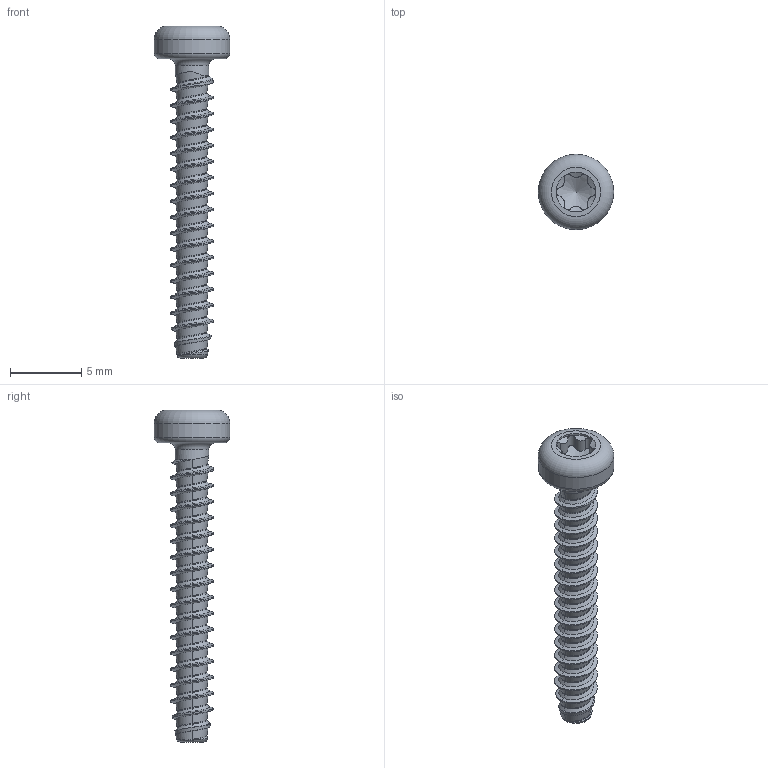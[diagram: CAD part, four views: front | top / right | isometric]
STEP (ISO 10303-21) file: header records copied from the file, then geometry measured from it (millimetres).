
FILE_DESCRIPTION(/* description */ (''),/* implementation_level */ '2;1');
FILE_NAME(/* name */ 'KN6039-STSplus-30x21-T10.step',/* time_stamp */ '2017-10-11T15:53:08+02:00',/* author */ (''),/* organization */ (''),/* preprocessor_version */ 'ST-DEVELOPER v16',/* originating_system */ 'SIEMENS PLM Software NX 10.0',/* authorisation */ '');
FILE_SCHEMA (('AUTOMOTIVE_DESIGN { 1 0 10303 214 3 1 1 1 }'));
Length unit declared in the file: millimetre
Products named in the file (1): KN6039-STSplus-30x21-T10
Bounding box: 5.3 x 5.3 x 23.3 mm (x, y, z)
Volume: 131.4 mm3; surface area: 309.7 mm2
Topology: 1 solids, 1 shells, 126 faces, 289 edges, 166 vertices
Faces by surface type: bspline 93, cylinder 16, cone 9, torus 4, plane 4
Full cylindrical faces by diameter (mm): 2.35 x1, 2.8 x1, 5.3 x1
Entity records: 8797 total; most frequent: CARTESIAN_POINT 6615, ORIENTED_EDGE 554, EDGE_CURVE 277, DIRECTION 206, VERTEX_POINT 163, B_SPLINE_CURVE_WITH_KNOTS 158, EDGE_LOOP 135, ADVANCED_FACE 126
